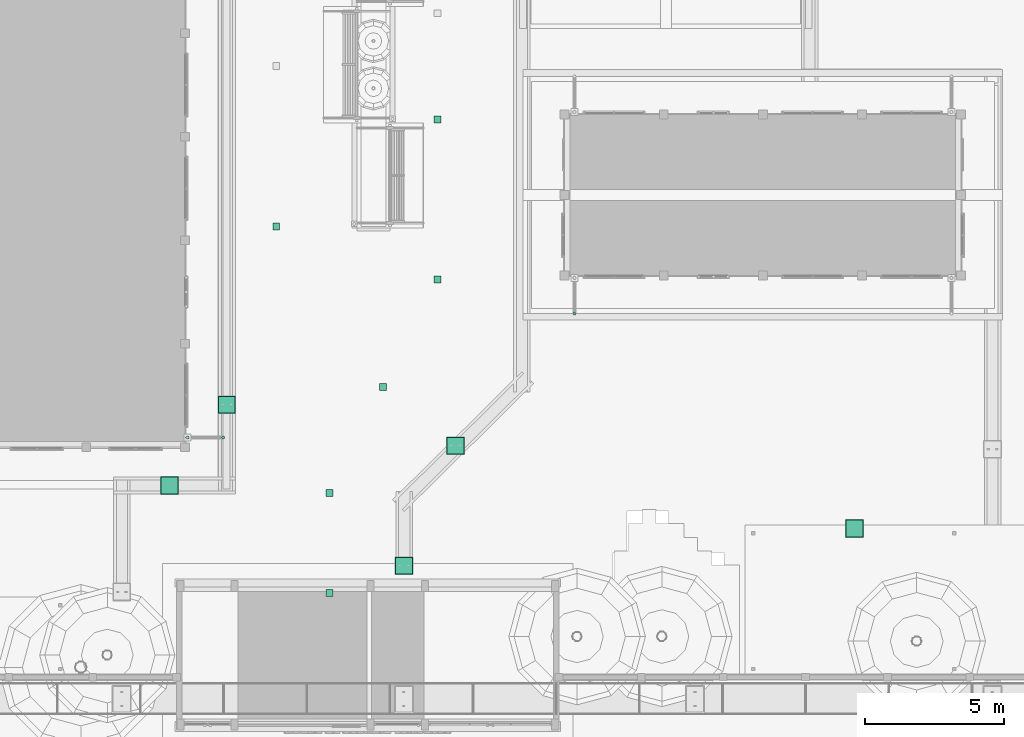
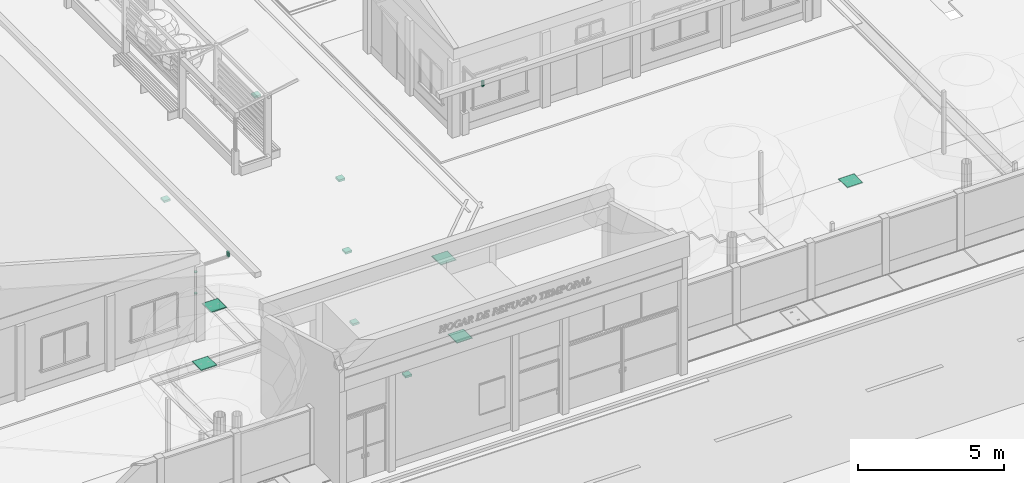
# One storey, part 118 of 177: 10 distribution chamber elements, 6 waste terminals, 4 pipe segments.
"""IFC4 building model written with IfcOpenShell, lengths in metres."""

import ifcopenshell
import ifcopenshell.guid

model = None  # the IFC model being written
_history = None  # IfcOwnerHistory: only IFC2X3 demands one
_inside = {}  # id of a spatial element -> (the spatial element, [elements in it])
_under = {}  # id of a project, library or spatial element -> (it, [spatial elements below it])
_declared = {}  # id of a project -> (the project, [libraries it declares])
_typed = {}  # id of a type object -> (the type object, [elements of that type])
_made_of = {}  # id of a material, layer set ... -> (it, [elements and type objects made of it])


def new_model(schema):
    """Start an empty IFC model of exactly this schema.

    Asked for "IFC4X3", IfcOpenShell would pick the latest addendum, in which some entities
    have other attributes; the version numbers below select the first issue.
    IFC2X3 requires an IfcOwnerHistory on every rooted entity: one is made here for all.
    """
    global model, _history
    if schema == "IFC4X3":
        model = ifcopenshell.file(schema_version=(4, 3, 0, 0))
    else:
        model = ifcopenshell.file(schema=schema)
    _inside.clear()
    _under.clear()
    _declared.clear()
    _typed.clear()
    _made_of.clear()
    _history = None
    if model.schema == "IFC2X3":
        org = make("IfcOrganization", Name="unknown")
        user = make(
            "IfcPersonAndOrganization",
            ThePerson=make("IfcPerson", FamilyName="unknown"),
            TheOrganization=org,
        )
        app = make(
            "IfcApplication",
            ApplicationDeveloper=org,
            Version="unknown",
            ApplicationFullName="unknown",
            ApplicationIdentifier="unknown",
        )
        _history = make(
            "IfcOwnerHistory",
            OwningUser=user,
            OwningApplication=app,
            ChangeAction="ADDED",
            CreationDate=0,
        )
    return model


def make(cls, **values):
    """One entity of the class cls with the attributes given. An attribute that is None is left unset."""
    return model.create_entity(
        cls, **{name: value for name, value in values.items() if value is not None}
    )


def rooted(cls, **values):
    """An entity with a GlobalId (a new one), such as an element, a storey or a relation."""
    return make(cls, GlobalId=ifcopenshell.guid.new(), OwnerHistory=_history, **values)


def si_unit(unit_type, name, prefix=None):
    """IfcSIUnit, for example si_unit("LENGTHUNIT", "METRE", prefix="MILLI")."""
    return make("IfcSIUnit", UnitType=unit_type, Prefix=prefix, Name=name)


def assignment(units):
    """IfcUnitAssignment: the units of a project."""
    return None if units is None else make("IfcUnitAssignment", Units=units)


def point(xyz):
    """IfcCartesianPoint."""
    return None if xyz is None else make("IfcCartesianPoint", Coordinates=xyz)


def direction(xyz):
    """IfcDirection."""
    return None if xyz is None else make("IfcDirection", DirectionRatios=xyz)


def frame(location, z_axis=None, x_axis=None):
    """IfcAxis2Placement3D, a coordinate frame: its origin and axes. An axis left out is left unset."""
    return make(
        "IfcAxis2Placement3D",
        Location=point(location),
        Axis=direction(z_axis),
        RefDirection=direction(x_axis),
    )


def origin():
    """The frame at (0, 0, 0) with its axes left unset."""
    return frame((0.0, 0.0, 0.0))


def origin_with_axes():
    """The frame at (0, 0, 0) with the z axis (0, 0, 1) and the x axis (1, 0, 0) written out."""
    return frame((0.0, 0.0, 0.0), z_axis=(0.0, 0.0, 1.0), x_axis=(1.0, 0.0, 0.0))


def place(relative_to, where):
    """IfcLocalPlacement: puts the frame where relative to a parent placement (None: the world)."""
    return make(
        "IfcLocalPlacement", PlacementRelTo=relative_to, RelativePlacement=where
    )


def context(
    kind, dimensions, precision=None, world=None, true_north=None, identifier=None
):
    """IfcGeometricRepresentationContext, for example the 3D "Model" context."""
    return make(
        "IfcGeometricRepresentationContext",
        ContextIdentifier=identifier,
        ContextType=kind,
        CoordinateSpaceDimension=dimensions,
        Precision=precision,
        WorldCoordinateSystem=world,
        TrueNorth=true_north,
    )


def subcontext(parent, identifier, kind, view, scale=None):
    """IfcGeometricRepresentationSubContext, for example "Body" below "Model"."""
    return make(
        "IfcGeometricRepresentationSubContext",
        ContextIdentifier=identifier,
        ContextType=kind,
        ParentContext=parent,
        TargetScale=scale,
        TargetView=view,
    )


def project(units=None, contexts=None):
    """IfcProject with its units and contexts."""
    return rooted(
        "IfcProject",
        Name="project",
        RepresentationContexts=contexts,
        UnitsInContext=assignment(units),
    )


def spatial(cls, under=None, at=None, **own):
    """A site, building, storey or space (cls), placed at a placement, below another one or the project."""
    s = rooted(cls, ObjectPlacement=at, **own)
    if under is not None:
        _under.setdefault(under.id(), (under, []))[1].append(s)
    return s


def point_list(points):
    """IfcCartesianPointList2D or 3D."""
    cls = (
        "IfcCartesianPointList2D" if len(points[0]) == 2 else "IfcCartesianPointList3D"
    )
    return make(cls, CoordList=points)


def triangles(points, corners, closed=None, point_numbers=None):
    """IfcTriangulatedFaceSet: each triangle names its three corners, points numbered from 1."""
    return make(
        "IfcTriangulatedFaceSet",
        Coordinates=point_list(points),
        Closed=closed,
        CoordIndex=corners,
        PnIndex=point_numbers,
    )


def shape(context_of_items, identifier, shape_type, items):
    """IfcShapeRepresentation: the items that make up one representation, for example the "Body"."""
    return make(
        "IfcShapeRepresentation",
        ContextOfItems=context_of_items,
        RepresentationIdentifier=identifier,
        RepresentationType=shape_type,
        Items=items,
    )


def made_of(thing, what):
    """Note that an element or type object is made of a material, layer set ...; save() writes the relation."""
    if what is not None:
        _made_of.setdefault(what.id(), (what, []))[1].append(thing)
    return thing


def element(
    cls,
    number,
    at=None,
    inside=None,
    cuts=None,
    type_object=None,
    material=None,
    context=None,
    identifier="Body",
    shape_type=None,
    held_by="IfcProductDefinitionShape",
    body=None,
    shapes=None,
    **own,
):
    """One element of the class cls, such as IfcWall. Its Tag is "e" and its number.

    at: its placement. inside: the storey or other place that contains it. cuts: it is an
    opening in that element (IfcRelVoidsElement). A single representation is given by context,
    identifier, shape_type and body (its items); several are given by shapes. held_by: the class
    of the entity that holds the representations. save() writes the other relations.
    """
    e = rooted(cls, Tag="e%d" % number, ObjectPlacement=at, **own)
    if body is not None:
        shapes = [shape(context, identifier, shape_type, body)]
    if shapes is not None:
        e.Representation = make(held_by, Representations=shapes)
    if inside is not None:
        _inside.setdefault(inside.id(), (inside, []))[1].append(e)
    if cuts is not None:
        rooted(
            "IfcRelVoidsElement", RelatingBuildingElement=cuts, RelatedOpeningElement=e
        )
    if type_object is not None:
        _typed.setdefault(type_object.id(), (type_object, []))[1].append(e)
    return made_of(e, material)


def aggregate(whole, parts):
    """IfcRelAggregates: a whole, such as a stair, and the parts it consists of."""
    return rooted("IfcRelAggregates", RelatingObject=whole, RelatedObjects=parts)


def save(model, path):
    """Write the relations noted so far, then the file.

    IfcRelAggregates (storeys below a building ...), IfcRelContainedInSpatialStructure (elements
    in a storey), IfcRelDefinesByType, IfcRelAssociatesMaterial and IfcRelDeclares: one each for
    every whole, place, type object, material and project.
    """
    for whole, parts in _under.values():
        aggregate(whole, parts)
    for where, things in _inside.values():
        rooted(
            "IfcRelContainedInSpatialStructure",
            RelatedElements=things,
            RelatingStructure=where,
        )
    for kind, things in _typed.values():
        rooted("IfcRelDefinesByType", RelatedObjects=things, RelatingType=kind)
    for what, things in _made_of.values():
        rooted("IfcRelAssociatesMaterial", RelatedObjects=things, RelatingMaterial=what)
    for by, libraries in _declared.values():
        rooted("IfcRelDeclares", RelatingContext=by, RelatedDefinitions=libraries)
    model.write(path)


model = new_model("IFC4")

# Units and contexts
model_context = context("Model", 3, precision=1e-05, world=origin_with_axes())
body_context = subcontext(model_context, "Body", "Model", "MODEL_VIEW")
ifc_project = project(units=[si_unit("LENGTHUNIT", "METRE"), si_unit("AREAUNIT", "SQUARE_METRE"), si_unit("VOLUMEUNIT", "CUBIC_METRE"), si_unit("PLANEANGLEUNIT", "RADIAN")], contexts=[model_context])

# Site, building, storey
site_placement = place(None, origin_with_axes())
site = spatial("IfcSite", under=ifc_project, at=site_placement, Name="Predio Los Mangos - Morales, San Martín", CompositionType="ELEMENT")
building_placement = place(site_placement, origin())
building = spatial("IfcBuilding", under=site, at=building_placement, Name="Hogar de Refugio Temporal", CompositionType="ELEMENT")
storey_placement = place(building_placement, origin())
storey = spatial("IfcBuildingStorey", under=building, at=storey_placement, Name="NIVEL 1 (NPT +0.00)", CompositionType="ELEMENT", Elevation=0.0)

# Pipe segments
pipe_segment_1_placement = place(storey_placement, origin())
element("IfcPipeSegment", 1, at=pipe_segment_1_placement, inside=storey, Name="montante_boquilla", ObjectType="Montante PVC 4\"", PredefinedType="RIGIDSEGMENT", context=body_context, shape_type="Tessellation", body=[
    triangles([(32.98, 26.705, 3.13), (32.98, 26.705, 2.91), (32.9525, 26.6976, 3.13), (32.9525, 26.6976, 2.91), (32.9324, 26.6775, 3.13), (32.9324, 26.6775, 2.91), (32.925, 26.65, 3.13), (32.925, 26.65, 2.91), (32.9324, 26.6225, 3.13), (32.9324, 26.6225, 2.91), (32.9525, 26.6024, 3.13), (32.9525, 26.6024, 2.91), (32.98, 26.595, 3.13), (32.98, 26.595, 2.91), (33.0075, 26.6024, 3.13), (33.0075, 26.6024, 2.91), (33.0276, 26.6225, 3.13), (33.0276, 26.6225, 2.91), (33.035, 26.65, 3.13), (33.035, 26.65, 2.91), (33.0276, 26.6775, 3.13), (33.0276, 26.6775, 2.91), (33.0075, 26.6976, 3.13), (33.0075, 26.6976, 2.91)], [[1, 2, 4], [1, 4, 3], [3, 4, 6], [3, 6, 5], [5, 6, 8], [5, 8, 7], [7, 8, 10], [7, 10, 9], [9, 10, 12], [9, 12, 11], [11, 12, 14], [11, 14, 13], [13, 14, 16], [13, 16, 15], [15, 16, 18], [15, 18, 17], [17, 18, 20], [17, 20, 19], [19, 20, 22], [19, 22, 21], [6, 4, 2], [2, 24, 22], [22, 20, 18], [18, 16, 14], [14, 12, 10], [10, 8, 6], [6, 2, 22], [22, 18, 14], [14, 10, 6], [22, 14, 6], [21, 22, 24], [21, 24, 23], [23, 24, 2], [23, 2, 1], [23, 1, 3], [3, 5, 7], [7, 9, 11], [11, 13, 15], [15, 17, 19], [19, 21, 23], [23, 3, 7], [7, 11, 15], [15, 19, 23], [7, 15, 23]]),
])
pipe_segment_2_placement = place(storey_placement, origin())
element("IfcPipeSegment", 2, at=pipe_segment_2_placement, inside=storey, Name="montante_abrazadera", ObjectType="Montante PVC 4\"", PredefinedType="RIGIDSEGMENT", context=body_context, shape_type="Tessellation", body=[
    triangles([(31.69, 26.588, 1.8), (31.69, 26.588, 1.84), (31.659, 26.5963, 1.8), (31.659, 26.5963, 1.84), (31.6363, 26.619, 1.8), (31.6363, 26.619, 1.84), (31.628, 26.65, 1.8), (31.628, 26.65, 1.84), (31.6363, 26.681, 1.8), (31.6363, 26.681, 1.84), (31.659, 26.7037, 1.8), (31.659, 26.7037, 1.84), (31.69, 26.712, 1.8), (31.69, 26.712, 1.84), (31.721, 26.7037, 1.8), (31.721, 26.7037, 1.84), (31.7437, 26.681, 1.8), (31.7437, 26.681, 1.84), (31.752, 26.65, 1.8), (31.752, 26.65, 1.84), (31.7437, 26.619, 1.8), (31.7437, 26.619, 1.84), (31.721, 26.5963, 1.8), (31.721, 26.5963, 1.84)], [[1, 2, 4], [1, 4, 3], [3, 4, 6], [3, 6, 5], [5, 6, 8], [5, 8, 7], [7, 8, 10], [7, 10, 9], [9, 10, 12], [9, 12, 11], [11, 12, 14], [11, 14, 13], [13, 14, 16], [13, 16, 15], [15, 16, 18], [15, 18, 17], [17, 18, 20], [17, 20, 19], [19, 20, 22], [19, 22, 21], [6, 4, 2], [2, 24, 22], [22, 20, 18], [18, 16, 14], [14, 12, 10], [10, 8, 6], [6, 2, 22], [22, 18, 14], [14, 10, 6], [22, 14, 6], [21, 22, 24], [21, 24, 23], [23, 24, 2], [23, 2, 1], [23, 1, 3], [3, 5, 7], [7, 9, 11], [11, 13, 15], [15, 17, 19], [19, 21, 23], [23, 3, 7], [7, 11, 15], [15, 19, 23], [7, 15, 23]]),
])
pipe_segment_3_placement = place(storey_placement, origin())
element("IfcPipeSegment", 3, at=pipe_segment_3_placement, inside=storey, Name="montante_abrazadera", ObjectType="Montante PVC 4\"", PredefinedType="RIGIDSEGMENT", context=body_context, shape_type="Tessellation", body=[
    triangles([(31.69, 26.588, 2.7), (31.69, 26.588, 2.74), (31.659, 26.5963, 2.7), (31.659, 26.5963, 2.74), (31.6363, 26.619, 2.7), (31.6363, 26.619, 2.74), (31.628, 26.65, 2.7), (31.628, 26.65, 2.74), (31.6363, 26.681, 2.7), (31.6363, 26.681, 2.74), (31.659, 26.7037, 2.7), (31.659, 26.7037, 2.74), (31.69, 26.712, 2.7), (31.69, 26.712, 2.74), (31.721, 26.7037, 2.7), (31.721, 26.7037, 2.74), (31.7437, 26.681, 2.7), (31.7437, 26.681, 2.74), (31.752, 26.65, 2.7), (31.752, 26.65, 2.74), (31.7437, 26.619, 2.7), (31.7437, 26.619, 2.74), (31.721, 26.5963, 2.7), (31.721, 26.5963, 2.74)], [[1, 2, 4], [1, 4, 3], [3, 4, 6], [3, 6, 5], [5, 6, 8], [5, 8, 7], [7, 8, 10], [7, 10, 9], [9, 10, 12], [9, 12, 11], [11, 12, 14], [11, 14, 13], [13, 14, 16], [13, 16, 15], [15, 16, 18], [15, 18, 17], [17, 18, 20], [17, 20, 19], [19, 20, 22], [19, 22, 21], [6, 4, 2], [2, 24, 22], [22, 20, 18], [18, 16, 14], [14, 12, 10], [10, 8, 6], [6, 2, 22], [22, 18, 14], [14, 10, 6], [22, 14, 6], [21, 22, 24], [21, 24, 23], [23, 24, 2], [23, 2, 1], [23, 1, 3], [3, 5, 7], [7, 9, 11], [11, 13, 15], [15, 17, 19], [19, 21, 23], [23, 3, 7], [7, 11, 15], [15, 19, 23], [7, 15, 23]]),
])
pipe_segment_4_placement = place(storey_placement, origin())
element("IfcPipeSegment", 4, at=pipe_segment_4_placement, inside=storey, Name="montante_boquilla", ObjectType="Montante PVC 4\"", PredefinedType="RIGIDSEGMENT", context=body_context, shape_type="Tessellation", body=[
    triangles([(45.65, 31.175, 3.13), (45.65, 31.175, 2.91), (45.6225, 31.1676, 3.13), (45.6225, 31.1676, 2.91), (45.6024, 31.1475, 3.13), (45.6024, 31.1475, 2.91), (45.595, 31.12, 3.13), (45.595, 31.12, 2.91), (45.6024, 31.0925, 3.13), (45.6024, 31.0925, 2.91), (45.6225, 31.0724, 3.13), (45.6225, 31.0724, 2.91), (45.65, 31.065, 3.13), (45.65, 31.065, 2.91), (45.6775, 31.0724, 3.13), (45.6775, 31.0724, 2.91), (45.6976, 31.0925, 3.13), (45.6976, 31.0925, 2.91), (45.705, 31.12, 3.13), (45.705, 31.12, 2.91), (45.6976, 31.1475, 3.13), (45.6976, 31.1475, 2.91), (45.6775, 31.1676, 3.13), (45.6775, 31.1676, 2.91)], [[1, 2, 4], [1, 4, 3], [3, 4, 6], [3, 6, 5], [5, 6, 8], [5, 8, 7], [7, 8, 10], [7, 10, 9], [9, 10, 12], [9, 12, 11], [11, 12, 14], [11, 14, 13], [13, 14, 16], [13, 16, 15], [15, 16, 18], [15, 18, 17], [17, 18, 20], [17, 20, 19], [19, 20, 22], [19, 22, 21], [6, 4, 2], [2, 24, 22], [22, 20, 18], [18, 16, 14], [14, 12, 10], [10, 8, 6], [6, 2, 22], [22, 18, 14], [14, 10, 6], [22, 14, 6], [21, 22, 24], [21, 24, 23], [23, 24, 2], [23, 2, 1], [23, 1, 3], [3, 5, 7], [7, 9, 11], [11, 13, 15], [15, 17, 19], [19, 21, 23], [23, 3, 7], [7, 11, 15], [15, 19, 23], [7, 15, 23]]),
])

# Waste terminals
waste_terminal_1_placement = place(storey_placement, origin())
element("IfcWasteTerminal", 5, at=waste_terminal_1_placement, inside=storey, Name="sumidero_fondo", ObjectType="Sumidero con rejilla", PredefinedType="GULLYTRAP", context=body_context, shape_type="Tessellation", body=[
    triangles([(40.585, 37.994, -0.02), (40.835, 37.994, -0.02), (40.835, 38.244, -0.02), (40.585, 38.244, -0.02), (40.585, 37.994, 0.064), (40.835, 37.994, 0.064), (40.835, 38.244, 0.064), (40.585, 38.244, 0.064)], [[1, 4, 3], [1, 3, 2], [5, 6, 7], [5, 7, 8], [1, 2, 6], [1, 6, 5], [2, 3, 7], [2, 7, 6], [3, 4, 8], [3, 8, 7], [4, 1, 5], [4, 5, 8]]),
])
waste_terminal_2_placement = place(storey_placement, origin())
element("IfcWasteTerminal", 6, at=waste_terminal_2_placement, inside=storey, Name="sumidero_fondo", ObjectType="Sumidero con rejilla", PredefinedType="GULLYTRAP", context=body_context, shape_type="Tessellation", body=[
    triangles([(34.772, 34.144, -0.02), (35.022, 34.144, -0.02), (35.022, 34.394, -0.02), (34.772, 34.394, -0.02), (34.772, 34.144, 0.064), (35.022, 34.144, 0.064), (35.022, 34.394, 0.064), (34.772, 34.394, 0.064)], [[1, 4, 3], [1, 3, 2], [5, 6, 7], [5, 7, 8], [1, 2, 6], [1, 6, 5], [2, 3, 7], [2, 7, 6], [3, 4, 8], [3, 8, 7], [4, 1, 5], [4, 5, 8]]),
])
waste_terminal_3_placement = place(storey_placement, origin())
element("IfcWasteTerminal", 7, at=waste_terminal_3_placement, inside=storey, Name="sumidero_fondo", ObjectType="Sumidero con rejilla", PredefinedType="GULLYTRAP", context=body_context, shape_type="Tessellation", body=[
    triangles([(40.585, 32.219, -0.02), (40.835, 32.219, -0.02), (40.835, 32.469, -0.02), (40.585, 32.469, -0.02), (40.585, 32.219, 0.064), (40.835, 32.219, 0.064), (40.835, 32.469, 0.064), (40.585, 32.469, 0.064)], [[1, 4, 3], [1, 3, 2], [5, 6, 7], [5, 7, 8], [1, 2, 6], [1, 6, 5], [2, 3, 7], [2, 7, 6], [3, 4, 8], [3, 8, 7], [4, 1, 5], [4, 5, 8]]),
])
waste_terminal_4_placement = place(storey_placement, origin())
element("IfcWasteTerminal", 8, at=waste_terminal_4_placement, inside=storey, Name="sumidero_fondo", ObjectType="Sumidero con rejilla", PredefinedType="GULLYTRAP", context=body_context, shape_type="Tessellation", body=[
    triangles([(38.622, 28.354, -0.02), (38.872, 28.354, -0.02), (38.872, 28.604, -0.02), (38.622, 28.604, -0.02), (38.622, 28.354, 0.064), (38.872, 28.354, 0.064), (38.872, 28.604, 0.064), (38.622, 28.604, 0.064)], [[1, 4, 3], [1, 3, 2], [5, 6, 7], [5, 7, 8], [1, 2, 6], [1, 6, 5], [2, 3, 7], [2, 7, 6], [3, 4, 8], [3, 8, 7], [4, 1, 5], [4, 5, 8]]),
])
waste_terminal_5_placement = place(storey_placement, origin())
element("IfcWasteTerminal", 9, at=waste_terminal_5_placement, inside=storey, Name="sumidero_fondo", ObjectType="Sumidero con rejilla", PredefinedType="GULLYTRAP", context=body_context, shape_type="Tessellation", body=[
    triangles([(36.697, 24.519, -0.02), (36.947, 24.519, -0.02), (36.947, 24.769, -0.02), (36.697, 24.769, -0.02), (36.697, 24.519, 0.064), (36.947, 24.519, 0.064), (36.947, 24.769, 0.064), (36.697, 24.769, 0.064)], [[1, 4, 3], [1, 3, 2], [5, 6, 7], [5, 7, 8], [1, 2, 6], [1, 6, 5], [2, 3, 7], [2, 7, 6], [3, 4, 8], [3, 8, 7], [4, 1, 5], [4, 5, 8]]),
])
waste_terminal_6_placement = place(storey_placement, origin())
element("IfcWasteTerminal", 10, at=waste_terminal_6_placement, inside=storey, Name="sumidero_fondo", ObjectType="Sumidero con rejilla", PredefinedType="GULLYTRAP", context=body_context, shape_type="Tessellation", body=[
    triangles([(36.697, 20.91, -0.02), (36.947, 20.91, -0.02), (36.947, 21.16, -0.02), (36.697, 21.16, -0.02), (36.697, 20.91, 0.064), (36.947, 20.91, 0.064), (36.947, 21.16, 0.064), (36.697, 21.16, 0.064)], [[1, 4, 3], [1, 3, 2], [5, 6, 7], [5, 7, 8], [1, 2, 6], [1, 6, 5], [2, 3, 7], [2, 7, 6], [3, 4, 8], [3, 8, 7], [4, 1, 5], [4, 5, 8]]),
])

# Distribution chamber elements
distribution_chamber_element_1_placement = place(storey_placement, origin())
element("IfcDistributionChamberElement", 11, at=distribution_chamber_element_1_placement, inside=storey, Name="tapa_insp_junta", ObjectType="Tapa de inspección", PredefinedType="INSPECTIONCHAMBER", context=body_context, shape_type="Tessellation", body=[
    triangles([(32.795, 27.51, 0.082), (33.435, 27.51, 0.082), (33.435, 28.15, 0.082), (32.795, 28.15, 0.082), (32.795, 27.51, 0.096), (33.435, 27.51, 0.096), (33.435, 28.15, 0.096), (32.795, 28.15, 0.096)], [[1, 4, 3], [1, 3, 2], [5, 6, 7], [5, 7, 8], [1, 2, 6], [1, 6, 5], [2, 3, 7], [2, 7, 6], [3, 4, 8], [3, 8, 7], [4, 1, 5], [4, 5, 8]]),
])
distribution_chamber_element_2_placement = place(storey_placement, origin())
element("IfcDistributionChamberElement", 12, at=distribution_chamber_element_2_placement, inside=storey, Name="tapa_inspeccion", ObjectType="Tapa de inspección", PredefinedType="INSPECTIONCHAMBER", context=body_context, shape_type="Tessellation", body=[
    triangles([(32.815, 27.53, 0.082), (33.415, 27.53, 0.082), (33.415, 28.13, 0.082), (32.815, 28.13, 0.082), (32.815, 27.53, 0.104), (33.415, 27.53, 0.104), (33.415, 28.13, 0.104), (32.815, 28.13, 0.104)], [[1, 4, 3], [1, 3, 2], [5, 6, 7], [5, 7, 8], [1, 2, 6], [1, 6, 5], [2, 3, 7], [2, 7, 6], [3, 4, 8], [3, 8, 7], [4, 1, 5], [4, 5, 8]]),
])
distribution_chamber_element_3_placement = place(storey_placement, origin())
element("IfcDistributionChamberElement", 13, at=distribution_chamber_element_3_placement, inside=storey, Name="tapa_insp_junta", ObjectType="Tapa de inspección", PredefinedType="INSPECTIONCHAMBER", context=body_context, shape_type="Tessellation", body=[
    triangles([(30.723, 24.599, 0.148), (31.363, 24.599, 0.148), (31.363, 25.239, 0.148), (30.723, 25.239, 0.148), (30.723, 24.599, 0.162), (31.363, 24.599, 0.162), (31.363, 25.239, 0.162), (30.723, 25.239, 0.162)], [[1, 4, 3], [1, 3, 2], [5, 6, 7], [5, 7, 8], [1, 2, 6], [1, 6, 5], [2, 3, 7], [2, 7, 6], [3, 4, 8], [3, 8, 7], [4, 1, 5], [4, 5, 8]]),
])
distribution_chamber_element_4_placement = place(storey_placement, origin())
element("IfcDistributionChamberElement", 14, at=distribution_chamber_element_4_placement, inside=storey, Name="tapa_inspeccion", ObjectType="Tapa de inspección", PredefinedType="INSPECTIONCHAMBER", context=body_context, shape_type="Tessellation", body=[
    triangles([(30.743, 24.619, 0.148), (31.343, 24.619, 0.148), (31.343, 25.219, 0.148), (30.743, 25.219, 0.148), (30.743, 24.619, 0.17), (31.343, 24.619, 0.17), (31.343, 25.219, 0.17), (30.743, 25.219, 0.17)], [[1, 4, 3], [1, 3, 2], [5, 6, 7], [5, 7, 8], [1, 2, 6], [1, 6, 5], [2, 3, 7], [2, 7, 6], [3, 4, 8], [3, 8, 7], [4, 1, 5], [4, 5, 8]]),
])
distribution_chamber_element_5_placement = place(storey_placement, origin())
element("IfcDistributionChamberElement", 15, at=distribution_chamber_element_5_placement, inside=storey, Name="tapa_insp_junta", ObjectType="Tapa de inspección", PredefinedType="INSPECTIONCHAMBER", context=body_context, shape_type="Tessellation", body=[
    triangles([(39.185, 21.703, 0.082), (39.825, 21.703, 0.082), (39.825, 22.343, 0.082), (39.185, 22.343, 0.082), (39.185, 21.703, 0.096), (39.825, 21.703, 0.096), (39.825, 22.343, 0.096), (39.185, 22.343, 0.096)], [[1, 4, 3], [1, 3, 2], [5, 6, 7], [5, 7, 8], [1, 2, 6], [1, 6, 5], [2, 3, 7], [2, 7, 6], [3, 4, 8], [3, 8, 7], [4, 1, 5], [4, 5, 8]]),
])
distribution_chamber_element_6_placement = place(storey_placement, origin())
element("IfcDistributionChamberElement", 16, at=distribution_chamber_element_6_placement, inside=storey, Name="tapa_inspeccion", ObjectType="Tapa de inspección", PredefinedType="INSPECTIONCHAMBER", context=body_context, shape_type="Tessellation", body=[
    triangles([(39.205, 21.723, 0.082), (39.805, 21.723, 0.082), (39.805, 22.323, 0.082), (39.205, 22.323, 0.082), (39.205, 21.723, 0.104), (39.805, 21.723, 0.104), (39.805, 22.323, 0.104), (39.205, 22.323, 0.104)], [[1, 4, 3], [1, 3, 2], [5, 6, 7], [5, 7, 8], [1, 2, 6], [1, 6, 5], [2, 3, 7], [2, 7, 6], [3, 4, 8], [3, 8, 7], [4, 1, 5], [4, 5, 8]]),
])
distribution_chamber_element_7_placement = place(storey_placement, origin())
element("IfcDistributionChamberElement", 17, at=distribution_chamber_element_7_placement, inside=storey, Name="tapa_insp_junta", ObjectType="Tapa de inspección", PredefinedType="INSPECTIONCHAMBER", context=body_context, shape_type="Tessellation", body=[
    triangles([(41.041, 26.031, 0.082), (41.681, 26.031, 0.082), (41.681, 26.671, 0.082), (41.041, 26.671, 0.082), (41.041, 26.031, 0.096), (41.681, 26.031, 0.096), (41.681, 26.671, 0.096), (41.041, 26.671, 0.096)], [[1, 4, 3], [1, 3, 2], [5, 6, 7], [5, 7, 8], [1, 2, 6], [1, 6, 5], [2, 3, 7], [2, 7, 6], [3, 4, 8], [3, 8, 7], [4, 1, 5], [4, 5, 8]]),
])
distribution_chamber_element_8_placement = place(storey_placement, origin())
element("IfcDistributionChamberElement", 18, at=distribution_chamber_element_8_placement, inside=storey, Name="tapa_inspeccion", ObjectType="Tapa de inspección", PredefinedType="INSPECTIONCHAMBER", context=body_context, shape_type="Tessellation", body=[
    triangles([(41.061, 26.051, 0.082), (41.661, 26.051, 0.082), (41.661, 26.651, 0.082), (41.061, 26.651, 0.082), (41.061, 26.051, 0.104), (41.661, 26.051, 0.104), (41.661, 26.651, 0.104), (41.061, 26.651, 0.104)], [[1, 4, 3], [1, 3, 2], [5, 6, 7], [5, 7, 8], [1, 2, 6], [1, 6, 5], [2, 3, 7], [2, 7, 6], [3, 4, 8], [3, 8, 7], [4, 1, 5], [4, 5, 8]]),
])
distribution_chamber_element_9_placement = place(storey_placement, origin())
element("IfcDistributionChamberElement", 19, at=distribution_chamber_element_9_placement, inside=storey, Name="tapa_insp_junta", ObjectType="Tapa de inspección", PredefinedType="INSPECTIONCHAMBER", context=body_context, shape_type="Tessellation", body=[
    triangles([(55.438, 23.046, 0.082), (56.078, 23.046, 0.082), (56.078, 23.686, 0.082), (55.438, 23.686, 0.082), (55.438, 23.046, 0.096), (56.078, 23.046, 0.096), (56.078, 23.686, 0.096), (55.438, 23.686, 0.096)], [[1, 4, 3], [1, 3, 2], [5, 6, 7], [5, 7, 8], [1, 2, 6], [1, 6, 5], [2, 3, 7], [2, 7, 6], [3, 4, 8], [3, 8, 7], [4, 1, 5], [4, 5, 8]]),
])
distribution_chamber_element_10_placement = place(storey_placement, origin())
element("IfcDistributionChamberElement", 20, at=distribution_chamber_element_10_placement, inside=storey, Name="tapa_inspeccion", ObjectType="Tapa de inspección", PredefinedType="INSPECTIONCHAMBER", context=body_context, shape_type="Tessellation", body=[
    triangles([(55.458, 23.066, 0.082), (56.058, 23.066, 0.082), (56.058, 23.666, 0.082), (55.458, 23.666, 0.082), (55.458, 23.066, 0.104), (56.058, 23.066, 0.104), (56.058, 23.666, 0.104), (55.458, 23.666, 0.104)], [[1, 4, 3], [1, 3, 2], [5, 6, 7], [5, 7, 8], [1, 2, 6], [1, 6, 5], [2, 3, 7], [2, 7, 6], [3, 4, 8], [3, 8, 7], [4, 1, 5], [4, 5, 8]]),
])

save(model, "model.ifc")
